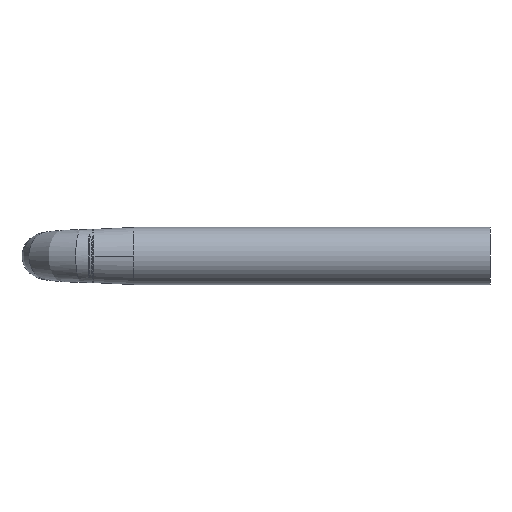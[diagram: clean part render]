
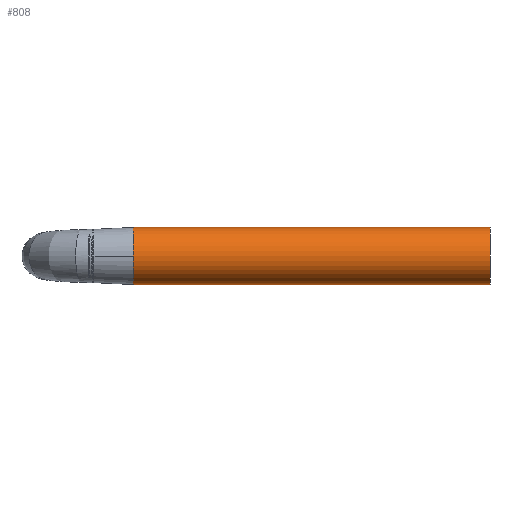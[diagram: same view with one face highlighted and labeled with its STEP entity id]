
A CAD part, front view. The second image highlights one B-rep face of the part: STEP entity #808.
In plain terms, the highlighted cylindrical face has radius 16 mm (diameter 32 mm), a partial arc.
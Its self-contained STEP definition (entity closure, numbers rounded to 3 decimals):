
#808=ADVANCED_FACE('',(#937),#936,.T.);
#936=CYLINDRICAL_SURFACE('',#1278,16.);
#937=FACE_OUTER_BOUND('',#1279,.T.);
#1275=CARTESIAN_POINT('',(149.989,156.988,0.));
#1276=DIRECTION('',(-1.,0.,0.));
#1277=DIRECTION('',(0.,0.,1.));
#1278=AXIS2_PLACEMENT_3D('',#1275,#1276,#1277);
#1279=EDGE_LOOP('',(#3954,#3955,#3956,#3957,#3958));
#3954=ORIENTED_EDGE('',*,*,#4073,.T.);
#3955=ORIENTED_EDGE('',*,*,#4105,.T.);
#3956=ORIENTED_EDGE('',*,*,#4107,.T.);
#3957=ORIENTED_EDGE('',*,*,#4108,.T.);
#3958=ORIENTED_EDGE('',*,*,#4106,.F.);
#4073=EDGE_CURVE('',#4152,#4153,#4154,.T.);
#4105=EDGE_CURVE('',#4153,#4366,#4373,.T.);
#4106=EDGE_CURVE('',#4152,#4358,#4379,.T.);
#4107=EDGE_CURVE('',#4366,#4385,#4386,.T.);
#4108=EDGE_CURVE('',#4385,#4358,#4392,.T.);
#4152=VERTEX_POINT('',#4674);
#4153=VERTEX_POINT('',#4675);
#4154=CIRCLE('',#4679,16.);
#4358=VERTEX_POINT('',#4944);
#4366=VERTEX_POINT('',#4950);
#4373=(BOUNDED_CURVE() B_SPLINE_CURVE(1,(#4955,#4956),.UNSPECIFIED.,.F.,.F.) B_SPLINE_CURVE_WITH_KNOTS((2,2),(0.045,0.955),.UNSPECIFIED.) CURVE() GEOMETRIC_REPRESENTATION_ITEM() RATIONAL_B_SPLINE_CURVE((1.,1.)) REPRESENTATION_ITEM('') );
#4379=(BOUNDED_CURVE() B_SPLINE_CURVE(1,(#4957,#4958),.UNSPECIFIED.,.F.,.F.) B_SPLINE_CURVE_WITH_KNOTS((2,2),(0.045,0.955),.UNSPECIFIED.) CURVE() GEOMETRIC_REPRESENTATION_ITEM() RATIONAL_B_SPLINE_CURVE((0.75,0.75)) REPRESENTATION_ITEM('') );
#4385=VERTEX_POINT('',#4959);
#4386=CIRCLE('',#4963,16.);
#4392=CIRCLE('',#4967,16.);
#4674=CARTESIAN_POINT('',(349.989,156.988,-16.));
#4675=CARTESIAN_POINT('',(349.989,156.988,16.));
#4676=CARTESIAN_POINT('',(349.989,156.988,0.));
#4677=DIRECTION('',(-1.,0.,0.));
#4678=DIRECTION('',(0.,0.,1.));
#4679=AXIS2_PLACEMENT_3D('',#4676,#4677,#4678);
#4944=CARTESIAN_POINT('',(149.989,156.99,-16.));
#4950=CARTESIAN_POINT('',(149.989,156.988,16.));
#4955=CARTESIAN_POINT('',(349.989,156.988,16.));
#4956=CARTESIAN_POINT('',(149.989,156.988,16.));
#4957=CARTESIAN_POINT('',(349.989,156.988,-16.));
#4958=CARTESIAN_POINT('',(149.989,156.988,-16.));
#4959=CARTESIAN_POINT('',(149.989,140.988,0.));
#4960=CARTESIAN_POINT('',(149.989,156.988,0.));
#4961=DIRECTION('',(1.,0.,0.));
#4962=DIRECTION('',(0.,-1.,0.));
#4963=AXIS2_PLACEMENT_3D('',#4960,#4961,#4962);
#4964=CARTESIAN_POINT('',(149.989,156.988,0.));
#4965=DIRECTION('',(1.,0.,0.));
#4966=DIRECTION('',(0.,-1.,0.));
#4967=AXIS2_PLACEMENT_3D('',#4964,#4965,#4966);
